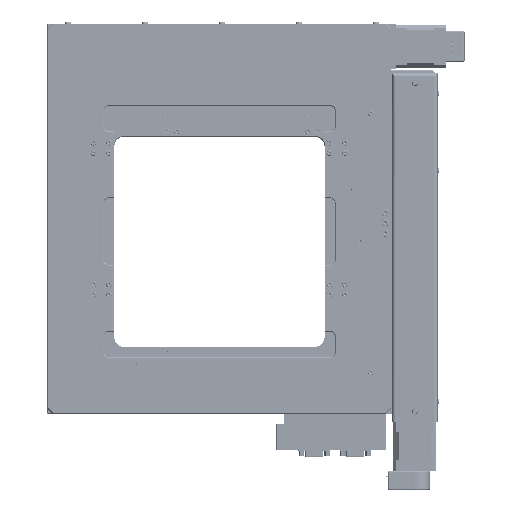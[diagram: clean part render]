
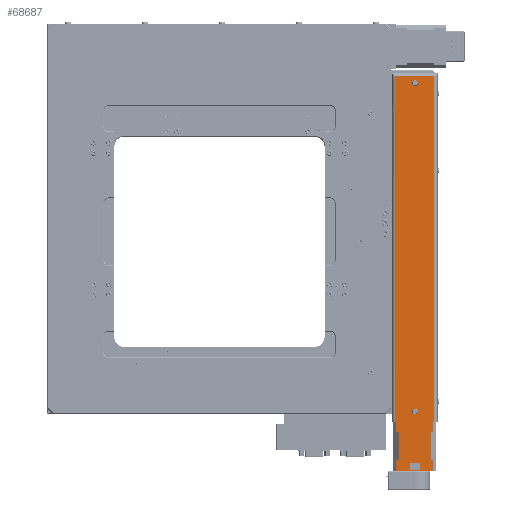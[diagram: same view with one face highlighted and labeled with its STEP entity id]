
A CAD part, top view. The second image highlights one B-rep face of the part: STEP entity #68687.
In plain terms, the highlighted planar face has unit normal (0, 0, 1).
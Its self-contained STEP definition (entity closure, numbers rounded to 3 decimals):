
#1592=LINE($,#96787,#6756);
#3712=LINE($,#104408,#8876);
#3713=LINE($,#104412,#8877);
#3719=LINE($,#104433,#8883);
#3932=LINE($,#105131,#9096);
#3971=LINE($,#105209,#9135);
#3978=LINE($,#105246,#9142);
#3982=LINE($,#105255,#9146);
#3983=LINE($,#105257,#9147);
#3988=LINE($,#105267,#9152);
#3990=LINE($,#105271,#9154);
#3991=LINE($,#105273,#9155);
#3999=LINE($,#105290,#9163);
#4008=LINE($,#105307,#9172);
#4009=LINE($,#105314,#9173);
#4010=LINE($,#105315,#9174);
#4011=LINE($,#105317,#9175);
#4012=LINE($,#105319,#9176);
#4013=LINE($,#105320,#9177);
#4014=LINE($,#105321,#9178);
#6756=VECTOR($,#78344,1.417);
#8876=VECTOR($,#85238,0.039);
#8877=VECTOR($,#85243,13.268);
#8883=VECTOR($,#85261,13.268);
#9096=VECTOR($,#85890,0.354);
#9135=VECTOR($,#85945,1.063);
#9142=VECTOR($,#85990,0.433);
#9146=VECTOR($,#86002,0.433);
#9147=VECTOR($,#86005,0.079);
#9152=VECTOR($,#86014,0.276);
#9154=VECTOR($,#86018,0.354);
#9155=VECTOR($,#86021,0.276);
#9163=VECTOR($,#86039,0.079);
#9172=VECTOR($,#86054,1.063);
#9173=VECTOR($,#86061,0.394);
#9174=VECTOR($,#86062,0.079);
#9175=VECTOR($,#86063,0.079);
#9176=VECTOR($,#86064,0.394);
#9177=VECTOR($,#86065,0.039);
#9178=VECTOR($,#86066,1.496);
#12883=FACE_BOUND($,#22080,.T.);
#12884=FACE_BOUND($,#22081,.T.);
#12885=FACE_BOUND($,#22082,.T.);
#12886=FACE_BOUND($,#22083,.T.);
#22080=EDGE_LOOP($,(#50546));
#22081=EDGE_LOOP($,(#50547));
#22082=EDGE_LOOP($,(#50548,#50549,#50550,#50551,#50552,#50553,#50554,#50555,
#50556,#50557,#50558,#50559,#50560,#50561,#50562,#50563));
#22083=EDGE_LOOP($,(#50564,#50565,#50566,#50567));
#26934=CIRCLE($,#74106,0.112);
#26935=CIRCLE($,#74107,0.112);
#28575=VERTEX_POINT($,#96784);
#28576=VERTEX_POINT($,#96786);
#30903=VERTEX_POINT($,#104405);
#30904=VERTEX_POINT($,#104407);
#30905=VERTEX_POINT($,#104411);
#30913=VERTEX_POINT($,#104430);
#30914=VERTEX_POINT($,#104432);
#31136=VERTEX_POINT($,#105128);
#31137=VERTEX_POINT($,#105130);
#31167=VERTEX_POINT($,#105206);
#31168=VERTEX_POINT($,#105208);
#31178=VERTEX_POINT($,#105242);
#31180=VERTEX_POINT($,#105253);
#31183=VERTEX_POINT($,#105265);
#31184=VERTEX_POINT($,#105269);
#31188=VERTEX_POINT($,#105287);
#31193=VERTEX_POINT($,#105305);
#31194=VERTEX_POINT($,#105309);
#31195=VERTEX_POINT($,#105311);
#31196=VERTEX_POINT($,#105313);
#31197=VERTEX_POINT($,#105316);
#31198=VERTEX_POINT($,#105318);
#34824=EDGE_CURVE($,#28576,#28575,#1592,.T.);
#38051=EDGE_CURVE($,#30904,#30903,#3712,.T.);
#38053=EDGE_CURVE($,#30904,#30905,#3713,.T.);
#38063=EDGE_CURVE($,#30914,#30913,#3719,.T.);
#38367=EDGE_CURVE($,#31137,#31136,#3932,.T.);
#38408=EDGE_CURVE($,#31167,#31168,#3971,.T.);
#38422=EDGE_CURVE($,#28576,#31178,#3978,.T.);
#38426=EDGE_CURVE($,#31180,#28575,#3982,.T.);
#38427=EDGE_CURVE($,#31180,#31168,#3983,.T.);
#38432=EDGE_CURVE($,#31136,#31183,#3988,.T.);
#38434=EDGE_CURVE($,#31183,#31184,#3990,.T.);
#38435=EDGE_CURVE($,#31184,#31137,#3991,.T.);
#38443=EDGE_CURVE($,#31188,#31178,#3999,.T.);
#38452=EDGE_CURVE($,#31188,#31193,#4008,.T.);
#38453=EDGE_CURVE($,#31194,#31194,#26934,.T.);
#38454=EDGE_CURVE($,#31195,#31195,#26935,.T.);
#38455=EDGE_CURVE($,#31196,#30903,#4009,.T.);
#38456=EDGE_CURVE($,#31196,#31193,#4010,.T.);
#38457=EDGE_CURVE($,#31167,#31197,#4011,.T.);
#38458=EDGE_CURVE($,#31198,#31197,#4012,.T.);
#38459=EDGE_CURVE($,#31198,#30914,#4013,.T.);
#38460=EDGE_CURVE($,#30905,#30913,#4014,.T.);
#50546=ORIENTED_EDGE($,*,*,#38453,.T.);
#50547=ORIENTED_EDGE($,*,*,#38454,.T.);
#50548=ORIENTED_EDGE($,*,*,#38455,.F.);
#50549=ORIENTED_EDGE($,*,*,#38456,.T.);
#50550=ORIENTED_EDGE($,*,*,#38452,.F.);
#50551=ORIENTED_EDGE($,*,*,#38443,.T.);
#50552=ORIENTED_EDGE($,*,*,#38422,.F.);
#50553=ORIENTED_EDGE($,*,*,#34824,.T.);
#50554=ORIENTED_EDGE($,*,*,#38426,.F.);
#50555=ORIENTED_EDGE($,*,*,#38427,.T.);
#50556=ORIENTED_EDGE($,*,*,#38408,.F.);
#50557=ORIENTED_EDGE($,*,*,#38457,.T.);
#50558=ORIENTED_EDGE($,*,*,#38458,.F.);
#50559=ORIENTED_EDGE($,*,*,#38459,.T.);
#50560=ORIENTED_EDGE($,*,*,#38063,.T.);
#50561=ORIENTED_EDGE($,*,*,#38460,.F.);
#50562=ORIENTED_EDGE($,*,*,#38053,.F.);
#50563=ORIENTED_EDGE($,*,*,#38051,.T.);
#50564=ORIENTED_EDGE($,*,*,#38432,.T.);
#50565=ORIENTED_EDGE($,*,*,#38434,.T.);
#50566=ORIENTED_EDGE($,*,*,#38435,.T.);
#50567=ORIENTED_EDGE($,*,*,#38367,.T.);
#61540=PLANE($,#74105);
#68687=ADVANCED_FACE($,(#12883,#12884,#12885,#12886),#61540,.T.);
#74105=AXIS2_PLACEMENT_3D($,#105308,#86055,#86056);
#74106=AXIS2_PLACEMENT_3D($,#105310,#86057,#86058);
#74107=AXIS2_PLACEMENT_3D($,#105312,#86059,#86060);
#78344=DIRECTION($,(1.,0.,0.));
#85238=DIRECTION($,(1.,0.,0.));
#85243=DIRECTION($,(0.,1.,0.));
#85261=DIRECTION($,(0.,1.,0.));
#85890=DIRECTION($,(1.,0.,0.));
#85945=DIRECTION($,(0.,-1.,0.));
#85990=DIRECTION($,(0.,1.,0.));
#86002=DIRECTION($,(0.,-1.,0.));
#86005=DIRECTION($,(-1.,0.,0.));
#86014=DIRECTION($,(0.,-1.,0.));
#86018=DIRECTION($,(-1.,0.,0.));
#86021=DIRECTION($,(0.,1.,0.));
#86039=DIRECTION($,(-1.,0.,0.));
#86054=DIRECTION($,(0.,1.,0.));
#86055=DIRECTION('center_axis',(0.,0.,
1.));
#86056=DIRECTION('ref_axis',(0.,-1.,0.));
#86057=DIRECTION('center_axis',(0.,0.,
-1.));
#86058=DIRECTION('ref_axis',(0.5,-0.866,0.));
#86059=DIRECTION('center_axis',(0.,0.,
-1.));
#86060=DIRECTION('ref_axis',(0.,1.,0.));
#86061=DIRECTION($,(0.,1.,0.));
#86062=DIRECTION($,(1.,0.,0.));
#86063=DIRECTION($,(1.,0.,0.));
#86064=DIRECTION($,(0.,-1.,0.));
#86065=DIRECTION($,(1.,0.,0.));
#86066=DIRECTION($,(1.,0.,0.));
#96784=CARTESIAN_POINT('',(14.803,-31.353,1.654));
#96786=CARTESIAN_POINT('',(13.386,-31.353,1.654));
#96787=CARTESIAN_POINT($,(13.268,-31.353,1.654));
#104405=CARTESIAN_POINT('',(13.386,-29.463,1.654));
#104407=CARTESIAN_POINT('',(13.346,-29.463,1.654));
#104408=CARTESIAN_POINT($,(13.228,-29.463,1.654));
#104411=CARTESIAN_POINT('',(13.346,-16.196,1.654));
#104412=CARTESIAN_POINT($,(13.346,-29.463,1.654));
#104430=CARTESIAN_POINT('',(14.843,-16.196,1.654));
#104432=CARTESIAN_POINT('',(14.843,-29.463,1.654));
#104433=CARTESIAN_POINT($,(14.843,-22.77,1.654));
#105128=CARTESIAN_POINT('',(14.272,-31.038,1.654));
#105130=CARTESIAN_POINT('',(13.917,-31.038,1.654));
#105131=CARTESIAN_POINT($,(14.921,-31.038,1.654));
#105206=CARTESIAN_POINT('',(14.724,-29.857,1.654));
#105208=CARTESIAN_POINT('',(14.724,-30.92,1.654));
#105209=CARTESIAN_POINT($,(14.724,-29.739,1.654));
#105242=CARTESIAN_POINT('',(13.386,-30.92,1.654));
#105246=CARTESIAN_POINT($,(13.386,-31.353,1.654));
#105253=CARTESIAN_POINT('',(14.803,-30.92,1.654));
#105255=CARTESIAN_POINT($,(14.803,-31.353,1.654));
#105257=CARTESIAN_POINT($,(13.268,-30.92,1.654));
#105265=CARTESIAN_POINT('',(14.272,-31.314,1.654));
#105267=CARTESIAN_POINT($,(14.272,-31.333,1.654));
#105269=CARTESIAN_POINT('',(13.917,-31.314,1.654));
#105271=CARTESIAN_POINT($,(14.419,-31.314,1.654));
#105273=CARTESIAN_POINT($,(13.917,-31.196,1.654));
#105287=CARTESIAN_POINT('',(13.465,-30.92,1.654));
#105290=CARTESIAN_POINT($,(13.268,-30.92,1.654));
#105305=CARTESIAN_POINT('',(13.465,-29.857,1.654));
#105307=CARTESIAN_POINT($,(13.465,-29.739,1.654));
#105308=CARTESIAN_POINT('Origin',(13.268,-29.739,1.654));
#105309=CARTESIAN_POINT('',(14.192,-29.013,1.654));
#105310=CARTESIAN_POINT('Origin',(14.094,-29.07,1.654));
#105311=CARTESIAN_POINT('',(14.192,-16.415,1.654));
#105312=CARTESIAN_POINT('Origin',(14.094,-16.471,1.654));
#105313=CARTESIAN_POINT('',(13.386,-29.857,1.654));
#105314=CARTESIAN_POINT($,(13.386,-29.463,1.654));
#105315=CARTESIAN_POINT($,(14.921,-29.857,1.654));
#105316=CARTESIAN_POINT('',(14.803,-29.857,1.654));
#105317=CARTESIAN_POINT($,(14.921,-29.857,1.654));
#105318=CARTESIAN_POINT('',(14.803,-29.463,1.654));
#105319=CARTESIAN_POINT($,(14.803,-29.463,1.654));
#105320=CARTESIAN_POINT($,(13.228,-29.463,1.654));
#105321=CARTESIAN_POINT($,(14.528,-16.196,1.654));
